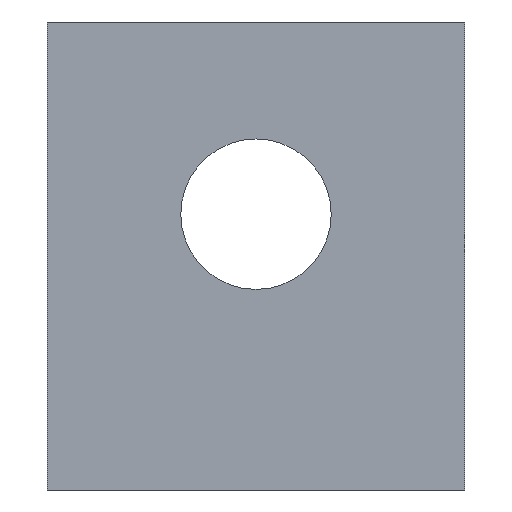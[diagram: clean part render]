
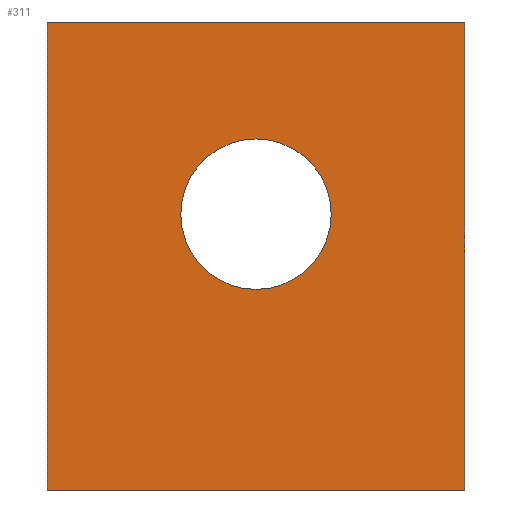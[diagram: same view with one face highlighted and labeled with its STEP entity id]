
A CAD part, front view. The second image highlights one B-rep face of the part: STEP entity #311.
In plain terms, the highlighted planar face has unit normal (0, -1, 0).
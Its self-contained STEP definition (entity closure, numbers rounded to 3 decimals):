
#13 = EDGE_LOOP ( 'NONE', ( #275, #286 ) ) ;
#15 = AXIS2_PLACEMENT_3D ( 'NONE', #43, #90, #188 ) ;
#20 = VERTEX_POINT ( 'NONE', #282 ) ;
#33 = CARTESIAN_POINT ( 'NONE',  ( 25., 0., -14. ) ) ;
#34 = VECTOR ( 'NONE', #132, 1000. ) ;
#35 = EDGE_CURVE ( 'NONE', #306, #20, #182, .T. ) ;
#37 = CARTESIAN_POINT ( 'NONE',  ( 0., 0., 0. ) ) ;
#43 = CARTESIAN_POINT ( 'NONE',  ( 0., 0., 0. ) ) ;
#58 = DIRECTION ( 'NONE',  ( 0., 0., 1. ) ) ;
#59 = EDGE_CURVE ( 'NONE', #20, #295, #273, .T. ) ;
#62 = ORIENTED_EDGE ( 'NONE', *, *, #245, .F. ) ;
#64 = CARTESIAN_POINT ( 'NONE',  ( 0., 0., 0. ) ) ;
#74 = CARTESIAN_POINT ( 'NONE',  ( 0., 0., 0. ) ) ;
#80 = AXIS2_PLACEMENT_3D ( 'NONE', #207, #125, #300 ) ;
#84 = CARTESIAN_POINT ( 'NONE',  ( 50., 0., 0. ) ) ;
#85 = ORIENTED_EDGE ( 'NONE', *, *, #35, .F. ) ;
#86 = FACE_BOUND ( 'NONE', #13, .T. ) ;
#90 = DIRECTION ( 'NONE',  ( 0., -1., 0. ) ) ;
#91 = LINE ( 'NONE', #284, #115 ) ;
#93 = EDGE_CURVE ( 'NONE', #295, #244, #91, .T. ) ;
#98 = CIRCLE ( 'NONE', #80, 9. ) ;
#101 = CARTESIAN_POINT ( 'NONE',  ( 25., 0., -32. ) ) ;
#106 = VECTOR ( 'NONE', #237, 1000. ) ;
#115 = VECTOR ( 'NONE', #160, 1000. ) ;
#125 = DIRECTION ( 'NONE',  ( 0., 1., 0. ) ) ;
#127 = ORIENTED_EDGE ( 'NONE', *, *, #59, .F. ) ;
#132 = DIRECTION ( 'NONE',  ( 0., 0., -1. ) ) ;
#151 = FACE_OUTER_BOUND ( 'NONE', #267, .T. ) ;
#152 = CARTESIAN_POINT ( 'NONE',  ( 25., 0., -23. ) ) ;
#160 = DIRECTION ( 'NONE',  ( -1., 0., 0. ) ) ;
#163 = VECTOR ( 'NONE', #277, 1000. ) ;
#177 = VERTEX_POINT ( 'NONE', #101 ) ;
#179 = CARTESIAN_POINT ( 'NONE',  ( 0., 0., -56. ) ) ;
#182 = LINE ( 'NONE', #37, #106 ) ;
#188 = DIRECTION ( 'NONE',  ( 0., 0., -1. ) ) ;
#191 = VERTEX_POINT ( 'NONE', #33 ) ;
#207 = CARTESIAN_POINT ( 'NONE',  ( 25., 0., -23. ) ) ;
#209 = DIRECTION ( 'NONE',  ( 0., 1., 0. ) ) ;
#221 = EDGE_CURVE ( 'NONE', #177, #191, #98, .T. ) ;
#236 = EDGE_CURVE ( 'NONE', #191, #177, #239, .T. ) ;
#237 = DIRECTION ( 'NONE',  ( 1., 0., 0. ) ) ;
#239 = CIRCLE ( 'NONE', #271, 9. ) ;
#240 = PLANE ( 'NONE',  #15 ) ;
#244 = VERTEX_POINT ( 'NONE', #179 ) ;
#245 = EDGE_CURVE ( 'NONE', #244, #306, #287, .T. ) ;
#267 = EDGE_LOOP ( 'NONE', ( #62, #292, #127, #85 ) ) ;
#271 = AXIS2_PLACEMENT_3D ( 'NONE', #152, #209, #58 ) ;
#273 = LINE ( 'NONE', #84, #34 ) ;
#275 = ORIENTED_EDGE ( 'NONE', *, *, #221, .T. ) ;
#277 = DIRECTION ( 'NONE',  ( 0., 0., 1. ) ) ;
#282 = CARTESIAN_POINT ( 'NONE',  ( 50., 0., 0. ) ) ;
#284 = CARTESIAN_POINT ( 'NONE',  ( 0., 0., -56. ) ) ;
#286 = ORIENTED_EDGE ( 'NONE', *, *, #236, .T. ) ;
#287 = LINE ( 'NONE', #74, #163 ) ;
#288 = CARTESIAN_POINT ( 'NONE',  ( 50., 0., -56. ) ) ;
#292 = ORIENTED_EDGE ( 'NONE', *, *, #93, .F. ) ;
#295 = VERTEX_POINT ( 'NONE', #288 ) ;
#300 = DIRECTION ( 'NONE',  ( 0., 0., 1. ) ) ;
#306 = VERTEX_POINT ( 'NONE', #64 ) ;
#311 = ADVANCED_FACE ( 'NONE', ( #151, #86 ), #240, .T. ) ;
